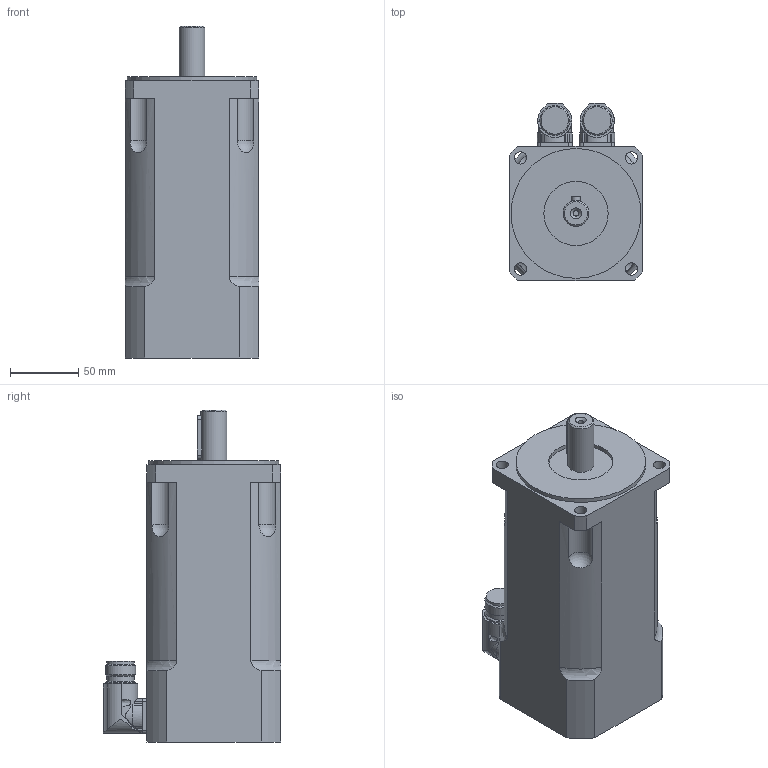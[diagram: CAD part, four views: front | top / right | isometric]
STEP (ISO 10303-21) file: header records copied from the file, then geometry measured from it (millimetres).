
FILE_DESCRIPTION(/* description */ ('Alibre Inc.'),/* implementation_level */ '2;1');
FILE_NAME(/* name */ 'export2',/* time_stamp */ '2013-05-07T09:58:15+02:00',/* author */ (''),/* organization */ (''),/* preprocessor_version */ 'ST-DEVELOPER v12',/* originating_system */ 'Alibre',/* authorisation */ '');
FILE_SCHEMA (('AUTOMOTIVE_DESIGN'));
Length unit declared in the file: centimetre
Products named in the file (4): ID_1; ID_2
Bounding box: 98 x 130 x 243 mm (x, y, z)
Volume: 1880411.6 mm3; surface area: 115463 mm2
Topology: 4 solids, 4 shells, 199 faces, 536 edges, 356 vertices
Faces by surface type: cylinder 116, plane 65, cone 8, torus 4, sphere 4, bspline 2
Full cylindrical faces by diameter (mm): 2.7 x8, 4.134 x1, 9 x4, 19 x1, 20 x8, 22 x4, 47 x1, 95 x1
Entity records: 5079 total; most frequent: CARTESIAN_POINT 1813, DIRECTION 647, ORIENTED_EDGE 640, EDGE_CURVE 320, AXIS2_PLACEMENT_3D 282, VERTEX_POINT 228, EDGE_LOOP 180, FACE_BOUND 180
